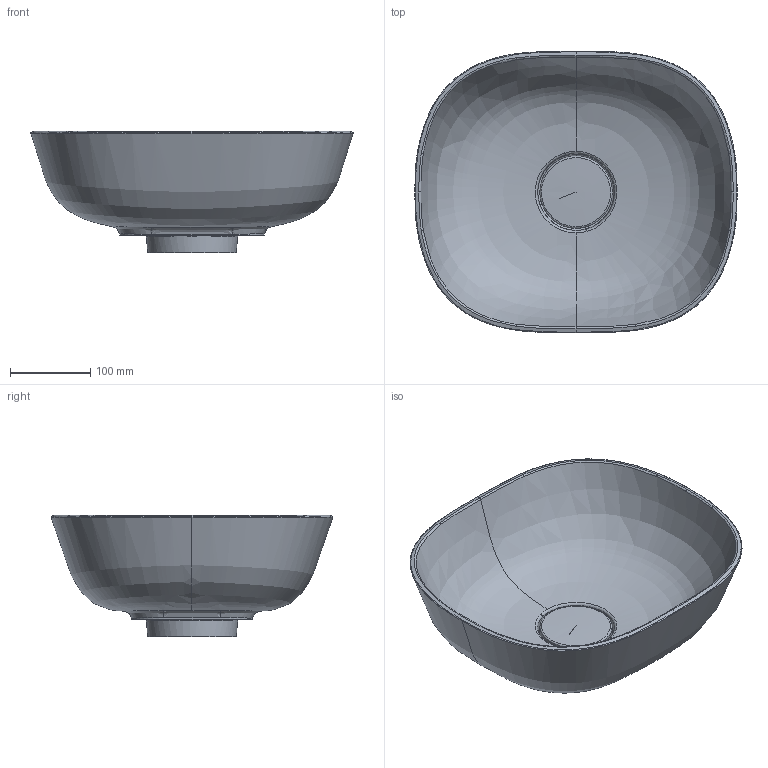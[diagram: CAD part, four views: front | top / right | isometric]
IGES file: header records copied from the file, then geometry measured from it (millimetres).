
Global section: file name: 67f90e73-a2b7-46ae-b476-f165b5c405a2; native system: unknown; preprocessor: unknown; author: unknown; organization: unknown; date: 20191122.150411; units: millimetre
Bounding box: 400.35 x 350.03 x 151.09 mm (x, y, z)
Volume: 2576315.7 mm3; surface area: 413484.4 mm2
Topology: 2 solids, 2 shells, 104 faces, 273 edges, 168 vertices
Faces by surface type: bspline 104
